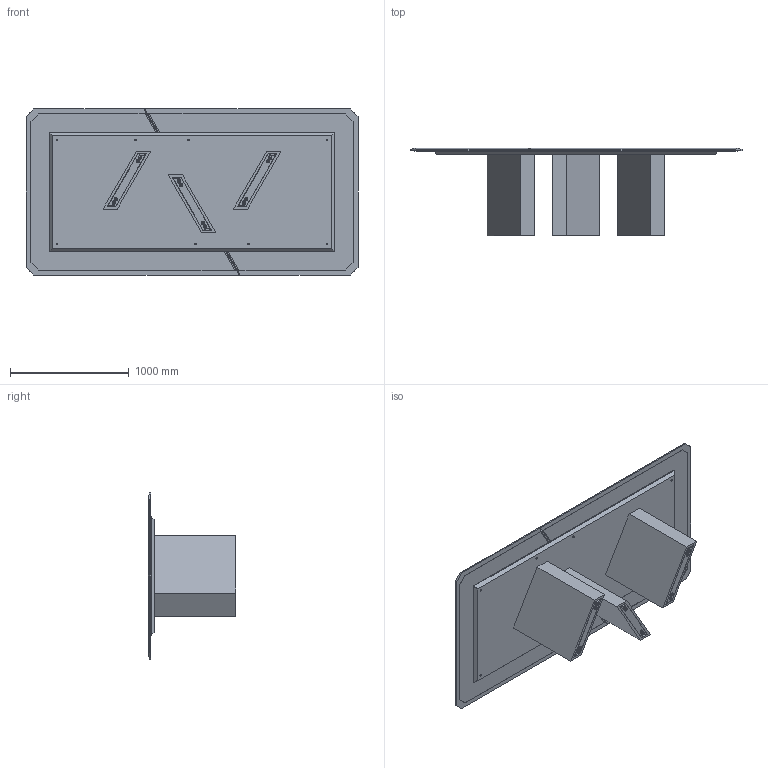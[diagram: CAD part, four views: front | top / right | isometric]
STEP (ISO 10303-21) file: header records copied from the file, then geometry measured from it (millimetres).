
FILE_DESCRIPTION (( 'STEP AP214' ), '1' );
FILE_NAME ('PlatiumClass_280 x140.STEP', '2026-05-05T09:31:14', ( '' ), ( '' ), 'SwSTEP 2.0', 'SolidWorks 2025', '' );
FILE_SCHEMA (( 'AUTOMOTIVE_DESIGN' ));
Length unit declared in the file: millimetre
Products named in the file (12): PlatiumClass_GOMMINA_SOTTOPIANO_PlatiumClass_280 x 140_GOMMINA_SOTTOPIANO; PlatiumClass_DISTANZIALE_TAVOLO_Piatto_Metallo_Piano_140_xD; PlatinumClass_tavolo_300 x 120_PlatiumClass_PIANO_280 x140 OPZ40; PlatinumClass_ASSIEME_GAMBA_UNICO_MARMO; PlatinumClass_Assieme_SOTTOPIANO_GOMMINA_PlatiumClass_280 x 140; PlatiumClass_PIANO_(260 280 300) x (120 e 140)_Buratti_TAVOLO_280 x 140 OPZ40; PlatiumClass_SOTTOPIANO_SOTTOPIANO_280 x 140; PlatiumClass_PIASTRINA_GAMBA; PlatiumClass_280 x140; PlatiumClass_RIVESTIMENTO_UNICO_GAMBA_MARMO; PlatiumClass_GAMBA_h70; PlatiumClass_LAMIERA_Lamiera 280 x140 OPZ 40
Assembly tree (18 placements, depth 3):
  PlatiumClass_280 x140
    PlatinumClass_Assieme_SOTTOPIANO_GOMMINA_PlatiumClass_280 x 140
      PlatiumClass_SOTTOPIANO_SOTTOPIANO_280 x 140
      PlatiumClass_GOMMINA_SOTTOPIANO_PlatiumClass_280 x 140_GOMMINA_SOTTOPIANO
    PlatinumClass_ASSIEME_GAMBA_UNICO_MARMO  x3
      PlatiumClass_GAMBA_h70
      PlatiumClass_RIVESTIMENTO_UNICO_GAMBA_MARMO
      PlatiumClass_PIASTRINA_GAMBA
    PlatinumClass_tavolo_300 x 120_PlatiumClass_PIANO_280 x140 OPZ40
      PlatiumClass_PIANO_(260 280 300) x (120 e 140)_Buratti_TAVOLO_280 x 140 OPZ40  x2
      PlatiumClass_DISTANZIALE_TAVOLO_Piatto_Metallo_Piano_140_xD
      PlatiumClass_LAMIERA_Lamiera 280 x140 OPZ 40  x2
Bounding box: 2800 x 736.5 x 1400 mm (x, y, z)
Volume: 265478980.1 mm3; surface area: 28357754 mm2
Topology: 25 solids, 25 shells, 612 faces, 1514 edges, 996 vertices
Faces by surface type: plane 340, cylinder 256, cone 16
Entity records: 9209 total; most frequent: CARTESIAN_POINT 1822, DIRECTION 1521, ORIENTED_EDGE 1390, EDGE_CURVE 695, AXIS2_PLACEMENT_3D 553, VERTEX_POINT 462, VECTOR 415, LINE 415
